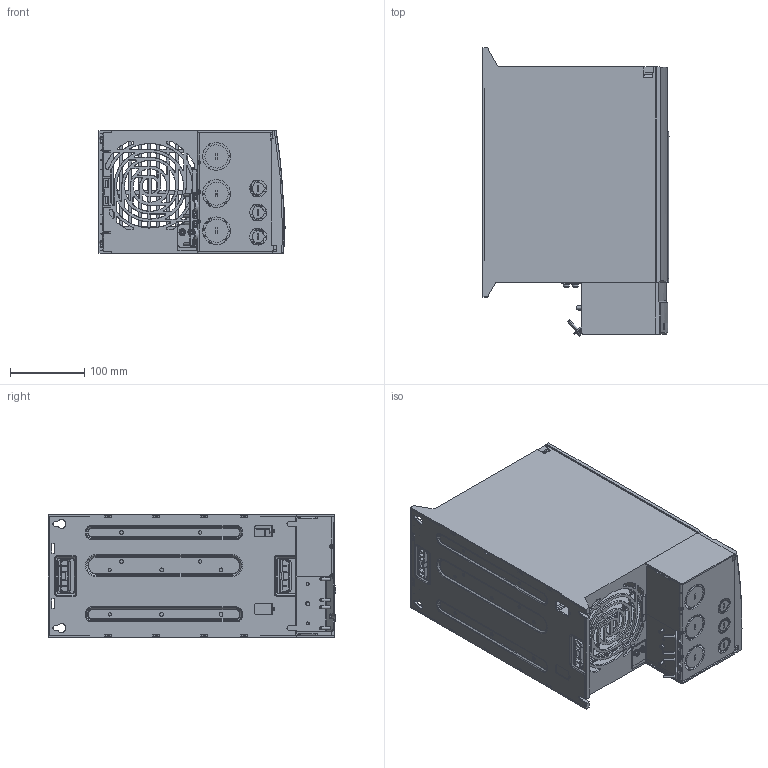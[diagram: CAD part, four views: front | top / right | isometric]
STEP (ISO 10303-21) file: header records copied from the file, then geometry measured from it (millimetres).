
FILE_DESCRIPTION (( 'STEP AP203' ), '1' );
FILE_NAME ('ﾏﾗﾂ 205 drawing STP_0.STEP', '2016-01-18T12:58:26', ( '' ), ( '' ), 'SwSTEP 2.0', 'SolidWorks 2015', '' );
FILE_SCHEMA (( 'CONFIG_CONTROL_DESIGN' ));
Length unit declared in the file: millimetre
Products named in the file (15): 195H6051; 132B4062; 681X0488; 132B4064; POWER-DECOUPLING_ASM; 132B3244; 132B3248; 175N1057; 132B4072_INST; 681X9232; ﾏﾗﾂ 205 drawing STP_0; 681X0366; 640F0307; 132B3216; 132B3243-V2
Assembly tree (25 placements, depth 3):
  ﾏﾗﾂ 205 drawing STP_0
    132B3243-V2
    132B4062
    132B4064
    POWER-DECOUPLING_ASM
      132B3244
      175N1057  x2
      681X9232  x2
      681X0366  x8
      640F0307
      132B3216
      195H6051  x2
      681X0488  x2
    132B3248
    132B4072_INST
Bounding box: 250.5 x 387.53 x 165 mm (x, y, z)
Volume: 914208.6 mm3; surface area: 912479.6 mm2
Topology: 10 solids, 48 shells, 3808 faces, 10826 edges, 7061 vertices
Faces by surface type: plane 2366, cylinder 703, cone 470, bspline 269
Entity records: 139371 total; most frequent: CARTESIAN_POINT 51921, ORIENTED_EDGE 19437, DIRECTION 15151, EDGE_CURVE 9828, VERTEX_POINT 6436, LINE 6371, VECTOR 6371, AXIS2_PLACEMENT_3D 4390
